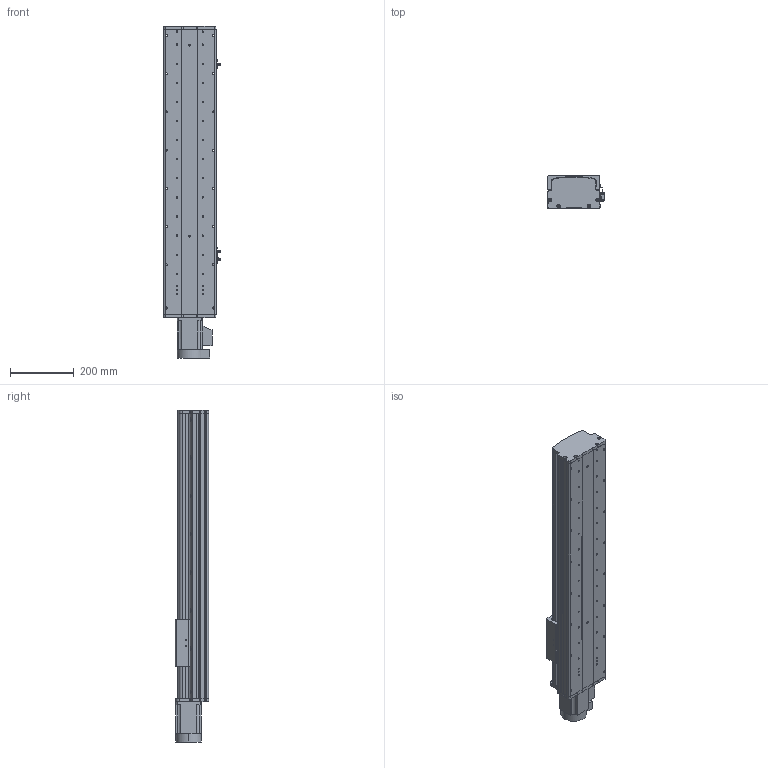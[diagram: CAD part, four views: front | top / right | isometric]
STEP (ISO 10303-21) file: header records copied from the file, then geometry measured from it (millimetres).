
FILE_DESCRIPTION (( 'STEP AP214' ), '1' );
FILE_NAME ('KSD165S-S600-MN-CM .STEP', '2017-08-07T08:12:22', ( '微软用户' ), ( '微软中国' ), 'SwSTEP 2.0', 'SolidWorks 2014', '' );
FILE_SCHEMA (( 'AUTOMOTIVE_DESIGN' ));
Length unit declared in the file: millimetre
Products named in the file (12): 拸秶雄ん750W侜督萇儂; KSD165模组-直连不带电机座电机连接板; KSD165耀郪-佪裝-滅袉菜-3 -; C44ㄜ1912WP; 覜茼え68遵圉猾敕; U倰嫖萇假蚾璃; U倰嫖萇EEㄜSX672; KSD165耀郪-綴傷啣1; KSD165模组-丝杆滑动座-最新版; KSD165S-S600-MN-CM ; KSD165模组-防尘盖1-600行程-直连不带电机座; KSD165模组底板-600行程-直连不带电机座
Assembly tree (15 placements, depth 2):
  KSD165S-S600-MN-CM 
    KSD165模组-丝杆滑动座-最新版
    KSD165耀郪-綴傷啣1
    U倰嫖萇EEㄜSX672  x3
    U倰嫖萇假蚾璃  x3
    覜茼え68遵圉猾敕
    C44ㄜ1912WP
    KSD165耀郪-佪裝-滅袉菜-3 -
    KSD165模组-直连不带电机座电机连接板
    拸秶雄ん750W侜督萇儂
    KSD165模组底板-600行程-直连不带电机座
    KSD165模组-防尘盖1-600行程-直连不带电机座
Bounding box: 178.7 x 104 x 1043 mm (x, y, z)
Volume: 6061237.6 mm3; surface area: 1325385 mm2
Topology: 16 solids, 16 shells, 1201 faces, 3358 edges, 2177 vertices
Faces by surface type: cylinder 631, plane 493, cone 77
Entity records: 37775 total; most frequent: CARTESIAN_POINT 8463, DIRECTION 5615, ORIENTED_EDGE 5396, EDGE_CURVE 2698, AXIS2_PLACEMENT_3D 2105, VERTEX_POINT 1769, LINE 1405, VECTOR 1405
